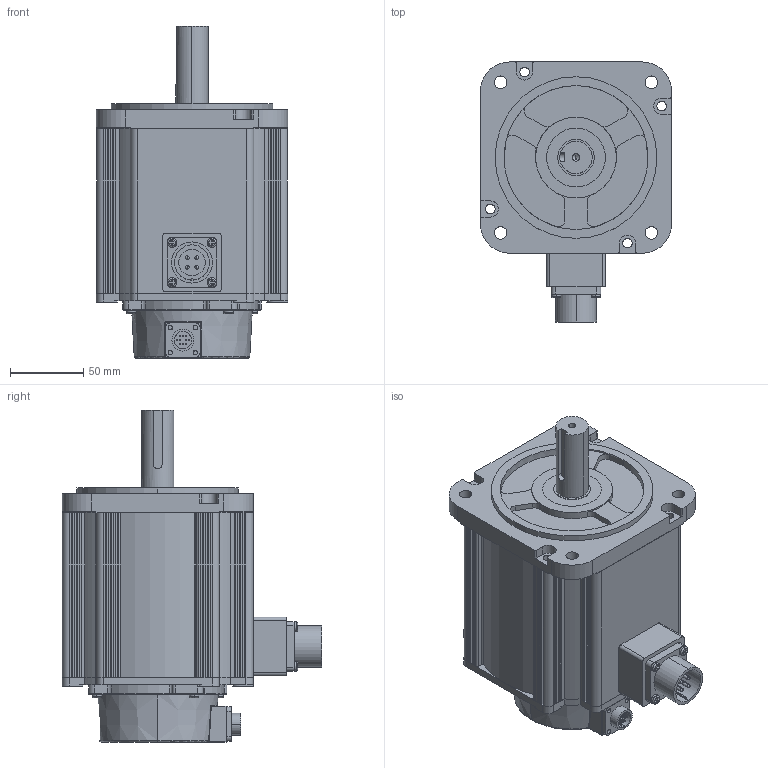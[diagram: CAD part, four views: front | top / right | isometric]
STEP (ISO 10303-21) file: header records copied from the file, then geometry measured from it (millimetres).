
FILE_DESCRIPTION (( 'STEP AP203' ), '1' );
FILE_NAME ('130E-11515.STEP', '2024-09-05T11:17:06', ( '' ), ( '' ), 'SwSTEP 2.0', 'SolidWorks 2018', '' );
FILE_SCHEMA (( 'CONFIG_CONTROL_DESIGN' ));
Length unit declared in the file: millimetre
Products named in the file (10): 18-10; 130A諉盄釱-1; 130E-11515; 儂褲-11.5; 橈勤硉晤鎢ん誘欶  S13E.10-01; 130A綴裔潠謹; 堤粣; 蚐猾; 130Aǰ; SC-CMV1-R10P-E
Assembly tree (9 placements, depth 2):
  130E-11515
    130A綴裔潠謹
    130A諉盄釱-1
    130Aǰ
    堤粣
    蚐猾
    儂褲-11.5
    18-10
    SC-CMV1-R10P-E
    橈勤硉晤鎢ん誘欶  S13E.10-01
Bounding box: 130.2 x 176.9 x 226 mm (x, y, z)
Volume: 701491.1 mm3; surface area: 300607 mm2
Topology: 9 solids, 13 shells, 925 faces, 2474 edges, 1616 vertices
Faces by surface type: plane 520, cylinder 330, torus 45, sphere 12, cone 10, bspline 8
Entity records: 30852 total; most frequent: CARTESIAN_POINT 6072, DIRECTION 5044, ORIENTED_EDGE 4892, EDGE_CURVE 2446, AXIS2_PLACEMENT_3D 1710, LINE 1624, VECTOR 1624, VERTEX_POINT 1604
